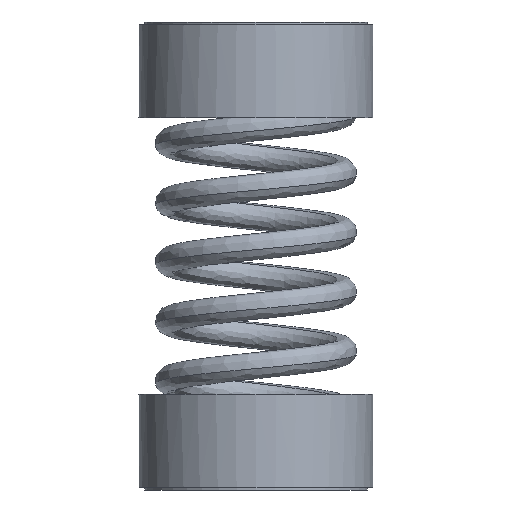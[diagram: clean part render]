
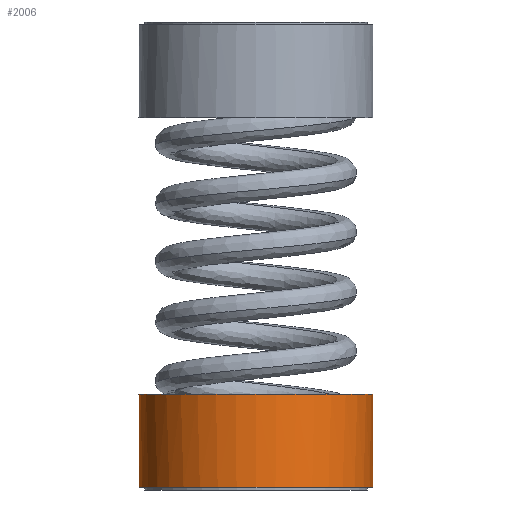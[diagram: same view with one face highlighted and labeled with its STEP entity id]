
A CAD part, left-side view. The second image highlights one B-rep face of the part: STEP entity #2006.
In plain terms, the highlighted cylindrical face has radius 34.925 mm (diameter 69.85 mm), a full revolution.
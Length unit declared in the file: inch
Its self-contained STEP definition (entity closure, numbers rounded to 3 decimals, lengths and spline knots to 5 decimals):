
#81=LINE('',#2787,#223);
#95=LINE('',#2816,#237);
#110=LINE('',#2850,#252);
#123=LINE('',#2877,#265);
#223=VECTOR('',#2299,0.095);
#237=VECTOR('',#2315,0.095);
#252=VECTOR('',#2338,0.095);
#265=VECTOR('',#2353,0.095);
#439=FACE_BOUND('',#619,.T.);
#495=FACE_OUTER_BOUND('',#618,.T.);
#618=EDGE_LOOP('',(#1443,#1444,#1445,#1446,#1447,#1448,#1449,#1450));
#619=EDGE_LOOP('',(#1451));
#716=CIRCLE('',#2106,1.375);
#718=CIRCLE('',#2111,1.375);
#720=CIRCLE('',#2114,1.375);
#723=CIRCLE('',#2118,1.375);
#747=CIRCLE('',#2166,1.375);
#802=VERTEX_POINT('',#2785);
#803=VERTEX_POINT('',#2786);
#816=VERTEX_POINT('',#2814);
#817=VERTEX_POINT('',#2815);
#830=VERTEX_POINT('',#2843);
#832=VERTEX_POINT('',#2849);
#844=VERTEX_POINT('',#2875);
#845=VERTEX_POINT('',#2876);
#861=VERTEX_POINT('',#2962);
#994=EDGE_CURVE('',#802,#803,#81,.T.);
#1008=EDGE_CURVE('',#816,#817,#95,.T.);
#1022=EDGE_CURVE('',#803,#830,#716,.T.);
#1025=EDGE_CURVE('',#830,#832,#110,.T.);
#1038=EDGE_CURVE('',#844,#845,#123,.T.);
#1052=EDGE_CURVE('',#845,#816,#718,.T.);
#1054=EDGE_CURVE('',#832,#844,#720,.T.);
#1057=EDGE_CURVE('',#817,#802,#723,.T.);
#1081=EDGE_CURVE('',#861,#861,#747,.T.);
#1443=ORIENTED_EDGE('',*,*,#1008,.T.);
#1444=ORIENTED_EDGE('',*,*,#1057,.T.);
#1445=ORIENTED_EDGE('',*,*,#994,.T.);
#1446=ORIENTED_EDGE('',*,*,#1022,.T.);
#1447=ORIENTED_EDGE('',*,*,#1025,.T.);
#1448=ORIENTED_EDGE('',*,*,#1054,.T.);
#1449=ORIENTED_EDGE('',*,*,#1038,.T.);
#1450=ORIENTED_EDGE('',*,*,#1052,.T.);
#1451=ORIENTED_EDGE('',*,*,#1081,.F.);
#1830=CYLINDRICAL_SURFACE('',#2165,1.375);
#2006=ADVANCED_FACE('',(#495,#439),#1830,.T.);
#2106=AXIS2_PLACEMENT_3D('',#2844,#2331,#2332);
#2111=AXIS2_PLACEMENT_3D('',#2904,#2369,#2370);
#2114=AXIS2_PLACEMENT_3D('',#2907,#2375,#2376);
#2118=AXIS2_PLACEMENT_3D('',#2911,#2383,#2384);
#2165=AXIS2_PLACEMENT_3D('',#2961,#2477,#2478);
#2166=AXIS2_PLACEMENT_3D('',#2963,#2479,#2480);
#2299=DIRECTION('',(0.,0.,1.));
#2315=DIRECTION('',(0.,0.,-1.));
#2331=DIRECTION('center_axis',(0.,0.,1.));
#2332=DIRECTION('ref_axis',(-1.,0.,0.));
#2338=DIRECTION('',(0.,0.,-1.));
#2353=DIRECTION('',(0.,0.,1.));
#2369=DIRECTION('center_axis',(0.,0.,1.));
#2370=DIRECTION('ref_axis',(-1.,0.,0.));
#2375=DIRECTION('center_axis',(0.,0.,1.));
#2376=DIRECTION('ref_axis',(-1.,0.,0.));
#2383=DIRECTION('center_axis',(0.,0.,1.));
#2384=DIRECTION('ref_axis',(-1.,0.,0.));
#2477=DIRECTION('center_axis',(0.,0.,1.));
#2478=DIRECTION('ref_axis',(-1.,0.,0.));
#2479=DIRECTION('center_axis',(0.,0.,1.));
#2480=DIRECTION('ref_axis',(-1.,0.,0.));
#2785=CARTESIAN_POINT('',(0.09375,1.3718,0.03));
#2786=CARTESIAN_POINT('',(0.09375,1.3718,0.125));
#2787=CARTESIAN_POINT('',(0.09375,1.3718,0.5775));
#2814=CARTESIAN_POINT('',(0.09375,-1.3718,0.125));
#2815=CARTESIAN_POINT('',(0.09375,-1.3718,0.03));
#2816=CARTESIAN_POINT('',(0.09375,-1.3718,0.5775));
#2843=CARTESIAN_POINT('',(-0.09375,1.3718,0.125));
#2844=CARTESIAN_POINT('Origin',(0.,0.,0.125));
#2849=CARTESIAN_POINT('',(-0.09375,1.3718,0.03));
#2850=CARTESIAN_POINT('',(-0.09375,1.3718,0.5775));
#2875=CARTESIAN_POINT('',(-0.09375,-1.3718,0.03));
#2876=CARTESIAN_POINT('',(-0.09375,-1.3718,0.125));
#2877=CARTESIAN_POINT('',(-0.09375,-1.3718,0.5775));
#2904=CARTESIAN_POINT('Origin',(0.,0.,0.125));
#2907=CARTESIAN_POINT('Origin',(0.,0.,0.03));
#2911=CARTESIAN_POINT('Origin',(0.,0.,0.03));
#2961=CARTESIAN_POINT('Origin',(0.,0.,0.5775));
#2962=CARTESIAN_POINT('',(-1.375,0.,1.125));
#2963=CARTESIAN_POINT('Origin',(0.,0.,1.125));
